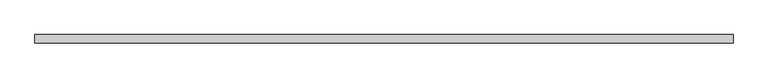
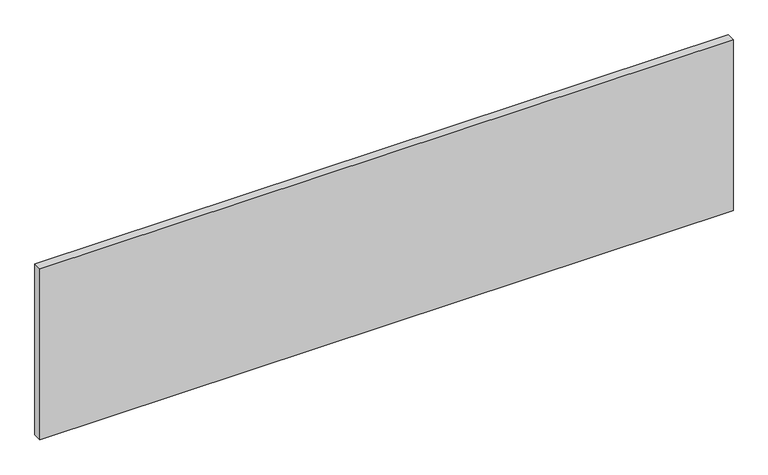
"""IFC4 building model written with IfcOpenShell, lengths in millimetres: proxy geometry, BASYS^CREDENZA 1_INTERNAL DETAILS-OVERLAY TOP."""

from ifc_helpers import new_model, si_unit, frame, origin, place, context, project, spatial, polyline, outline, extrude, source, transform, mapped, element, save


def generic_models_457b1677(model_context):
    return source(origin(), model_context, "Body", "SweptSolid", [
        extrude(outline(polyline([(2438.4, 0.0), (0.0, 0.0), (0.0, 30.0), (2438.4, 30.0), (2438.4, 0.0)])), frame((0.0, 0.0, -635.0), z_axis=(0.0, 0.0, 1.0), x_axis=(1.0, 0.0, 0.0)), (0.0, 0.0, 1.0), 635.0),
    ])


if __name__ == "__main__":
    model = new_model("IFC4")
    model_context = context("Model", 3, world=origin())
    ifc_project = project(units=[si_unit("LENGTHUNIT", "METRE", prefix="MILLI")], contexts=[model_context])
    site = spatial("IfcSite", under=ifc_project)
    building = spatial("IfcBuilding", under=site)
    placement = place(None, origin())
    generic_models_shape = generic_models_457b1677(model_context)
    element("IfcBuildingElementProxy", 1, Name="BASYS^CREDENZA 1_INTERNAL DETAILS-OVERLAY TOP", ObjectType="BASYS^CREDENZA 1_INTERNAL DETAILS-OVERLAY TOP", at=placement, inside=building, context=model_context, shape_type="MappedRepresentation", body=[
        mapped(generic_models_shape, transform((0.0, 0.0, 0.0), x_axis=(1.0, 0.0, 0.0), y_axis=(0.0, 1.0, 0.0), z_axis=(0.0, 0.0, 1.0))),
    ])
    save(model, "model.ifc")
